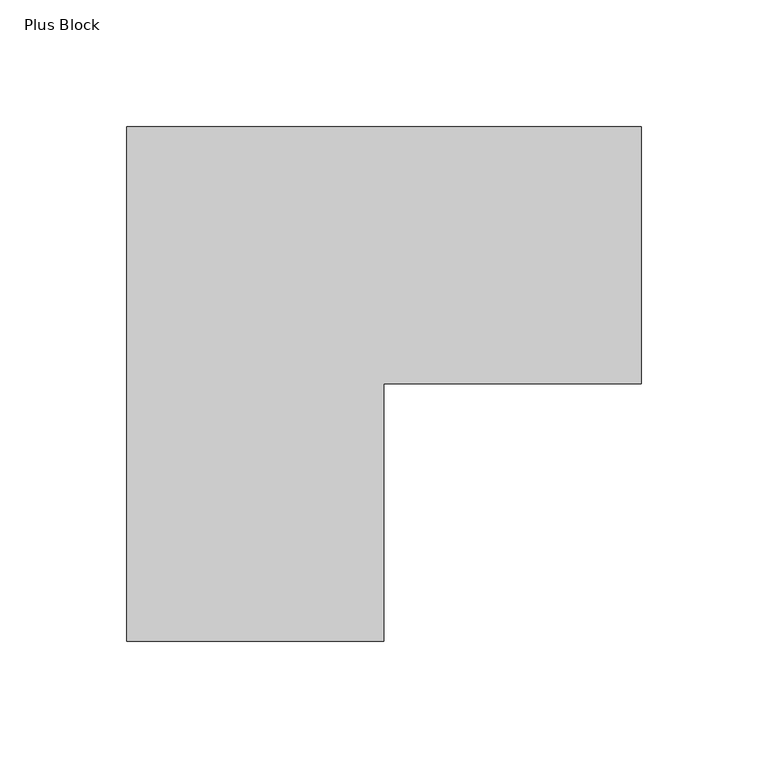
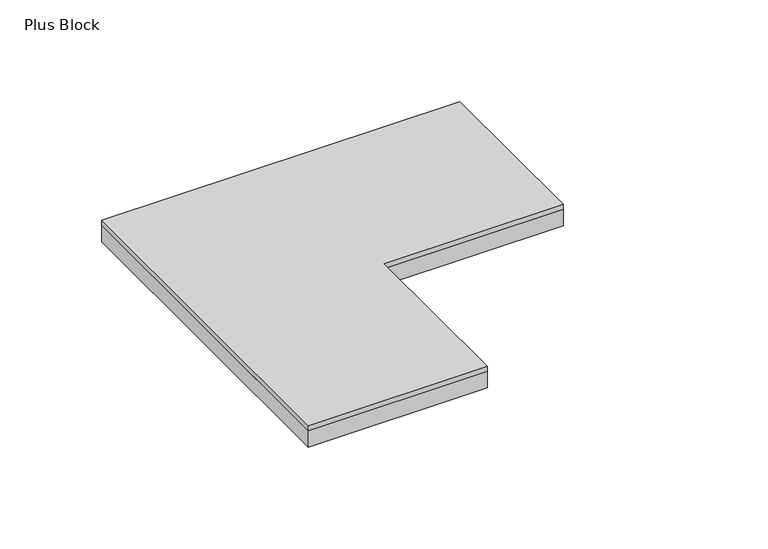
"""IFC4 building model written with IfcOpenShell, lengths in millimetres: proxy geometry, FilzFelt_Plus_Block : Plus Block."""

from ifc_helpers import new_model, si_unit, frame, origin, origin_with_axes, place, context, project, spatial, polyline, outline, extrude, source, transform, mapped, element, save


def plus_block_dd2fe4e4(model_context):
    return source(origin(), model_context, "Body", "SweptSolid", [
        extrude(outline(polyline([(152.5, 50.8333333), (152.5, -50.8333333), (50.8333333, -50.8333333), (50.8333333, -152.5), (-50.8333333, -152.5), (-50.8333333, 50.8333333), (152.5, 50.8333333)])), frame((0.0, 0.0, 10.0210937), z_axis=(0.0, 0.0, 1.0), x_axis=(1.0, 0.0, 0.0)), (0.0, 0.0, 1.0), 2.9765625),
        extrude(outline(polyline([(152.5, 50.8333333), (152.5, -50.8333333), (50.8333333, -50.8333333), (50.8333333, -152.5), (-50.8333333, -152.5), (-50.8333333, 50.8333333), (152.5, 50.8333333)])), origin_with_axes(), (0.0, 0.0, 1.0), 10.0210938),
    ])


if __name__ == "__main__":
    model = new_model("IFC4")
    model_context = context("Model", 3, world=origin())
    ifc_project = project(units=[si_unit("LENGTHUNIT", "METRE", prefix="MILLI")], contexts=[model_context])
    site = spatial("IfcSite", under=ifc_project)
    building = spatial("IfcBuilding", under=site)
    placement = place(None, origin())
    plus_block_shape = plus_block_dd2fe4e4(model_context)
    element("IfcBuildingElementProxy", 1, Name="FilzFelt_Plus_Block : Plus Block", ObjectType="FilzFelt_Plus_Block : Plus Block", at=placement, inside=building, context=model_context, shape_type="MappedRepresentation", body=[
        mapped(plus_block_shape, transform((0.0, 0.0, 0.0), x_axis=(1.0, 0.0, 0.0), y_axis=(0.0, 1.0, 0.0), z_axis=(0.0, 0.0, 1.0))),
    ])
    save(model, "model.ifc")
